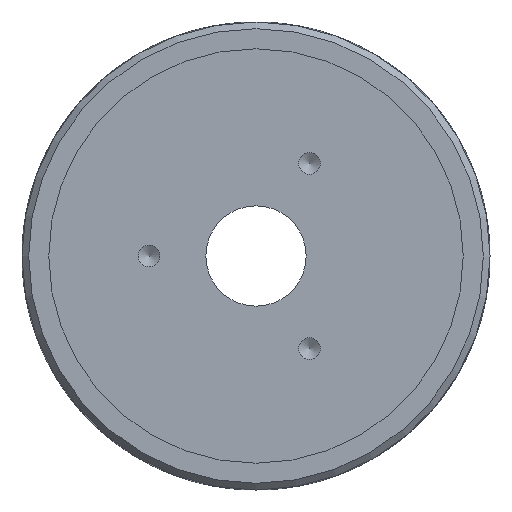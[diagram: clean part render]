
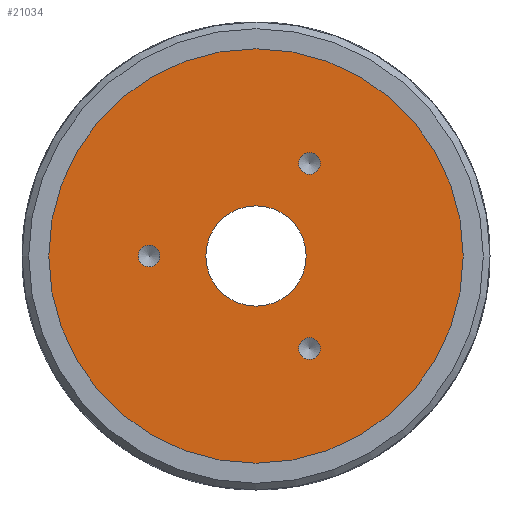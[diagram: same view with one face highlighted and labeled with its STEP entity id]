
A CAD part, left-side view. The second image highlights one B-rep face of the part: STEP entity #21034.
In plain terms, the highlighted planar face has unit normal (-1, 0, 0).
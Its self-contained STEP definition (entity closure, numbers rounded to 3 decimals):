
#4701=PLANE('',#24029);
#4765=FACE_BOUND('',#6967,.T.);
#4766=FACE_BOUND('',#6968,.T.);
#4767=FACE_BOUND('',#6969,.T.);
#4768=FACE_BOUND('',#6970,.T.);
#5837=FACE_OUTER_BOUND('',#6966,.T.);
#6966=EDGE_LOOP('',(#18416));
#6967=EDGE_LOOP('',(#18417));
#6968=EDGE_LOOP('',(#18418));
#6969=EDGE_LOOP('',(#18419));
#6970=EDGE_LOOP('',(#18420));
#7330=CIRCLE('',#22659,31.);
#7562=CIRCLE('',#24018,1.621);
#7564=CIRCLE('',#24022,1.621);
#7566=CIRCLE('',#24026,1.621);
#7568=CIRCLE('',#24030,7.5);
#8720=VERTEX_POINT('',#34684);
#9625=VERTEX_POINT('',#37396);
#9627=VERTEX_POINT('',#37402);
#9629=VERTEX_POINT('',#37408);
#9631=VERTEX_POINT('',#37414);
#11356=EDGE_CURVE('',#8720,#8720,#7330,.T.);
#12708=EDGE_CURVE('',#9625,#9625,#7562,.T.);
#12710=EDGE_CURVE('',#9627,#9627,#7564,.T.);
#12712=EDGE_CURVE('',#9629,#9629,#7566,.T.);
#12714=EDGE_CURVE('',#9631,#9631,#7568,.T.);
#18416=ORIENTED_EDGE('',*,*,#11356,.F.);
#18417=ORIENTED_EDGE('',*,*,#12708,.T.);
#18418=ORIENTED_EDGE('',*,*,#12710,.T.);
#18419=ORIENTED_EDGE('',*,*,#12712,.T.);
#18420=ORIENTED_EDGE('',*,*,#12714,.T.);
#21034=ADVANCED_FACE('',(#5837,#4765,#4766,#4767,#4768),#4701,.T.);
#22659=AXIS2_PLACEMENT_3D('',#34685,#27960,#27961);
#24018=AXIS2_PLACEMENT_3D('',#37397,#31126,#31127);
#24022=AXIS2_PLACEMENT_3D('',#37403,#31134,#31135);
#24026=AXIS2_PLACEMENT_3D('',#37409,#31142,#31143);
#24029=AXIS2_PLACEMENT_3D('',#37413,#31148,#31149);
#24030=AXIS2_PLACEMENT_3D('',#37415,#31150,#31151);
#27960=DIRECTION('center_axis',(1.,0.,0.));
#27961=DIRECTION('ref_axis',(0.,0.,-1.));
#31126=DIRECTION('center_axis',(1.,0.,0.));
#31127=DIRECTION('ref_axis',(0.,0.,1.));
#31134=DIRECTION('center_axis',(1.,0.,0.));
#31135=DIRECTION('ref_axis',(0.,0.,1.));
#31142=DIRECTION('center_axis',(1.,0.,0.));
#31143=DIRECTION('ref_axis',(0.,0.,1.));
#31148=DIRECTION('center_axis',(-1.,0.,0.));
#31149=DIRECTION('ref_axis',(0.,0.,1.));
#31150=DIRECTION('center_axis',(1.,0.,0.));
#31151=DIRECTION('ref_axis',(0.,0.,-1.));
#34684=CARTESIAN_POINT('',(-9.25,31.,0.));
#34685=CARTESIAN_POINT('Origin',(-9.25,0.,0.));
#37396=CARTESIAN_POINT('',(-9.25,-8.,-12.235));
#37397=CARTESIAN_POINT('Origin',(-9.25,-8.,-13.856));
#37402=CARTESIAN_POINT('',(-9.25,16.,1.621));
#37403=CARTESIAN_POINT('Origin',(-9.25,16.,0.));
#37408=CARTESIAN_POINT('',(-9.25,-8.,15.477));
#37409=CARTESIAN_POINT('Origin',(-9.25,-8.,13.856));
#37413=CARTESIAN_POINT('Origin',(-9.25,31.,0.));
#37414=CARTESIAN_POINT('',(-9.25,7.5,0.));
#37415=CARTESIAN_POINT('Origin',(-9.25,0.,0.));
